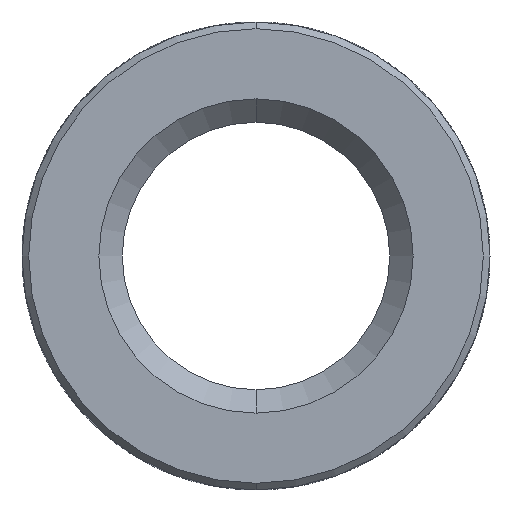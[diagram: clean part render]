
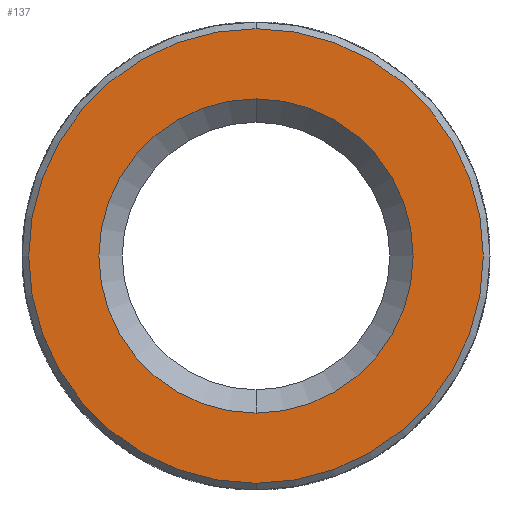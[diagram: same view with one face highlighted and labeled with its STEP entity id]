
A CAD part, front view. The second image highlights one B-rep face of the part: STEP entity #137.
In plain terms, the highlighted planar face has unit normal (0, -1, 0).
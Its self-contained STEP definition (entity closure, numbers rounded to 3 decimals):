
#62 = VERTEX_POINT ( 'NONE', #541 ) ;
#137 = ADVANCED_FACE ( 'NONE', ( #2642, #1533 ), #3821, .T. ) ;
#252 = DIRECTION ( 'NONE',  ( 0., 0., -1. ) ) ;
#270 = ORIENTED_EDGE ( 'NONE', *, *, #3287, .T. ) ;
#439 = DIRECTION ( 'NONE',  ( 0., 1., 0. ) ) ;
#541 = CARTESIAN_POINT ( 'NONE',  ( 0., -6.2, 2.35 ) ) ;
#672 = CIRCLE ( 'NONE', #2906, 3.4 ) ;
#808 = CIRCLE ( 'NONE', #1620, 3.4 ) ;
#935 = AXIS2_PLACEMENT_3D ( 'NONE', #2308, #3203, #1141 ) ;
#940 = EDGE_LOOP ( 'NONE', ( #1844, #270 ) ) ;
#971 = AXIS2_PLACEMENT_3D ( 'NONE', #1816, #2452, #2761 ) ;
#1043 = DIRECTION ( 'NONE',  ( 0., 0., -1. ) ) ;
#1084 = VERTEX_POINT ( 'NONE', #2607 ) ;
#1141 = DIRECTION ( 'NONE',  ( 0., 0., -1. ) ) ;
#1533 = FACE_BOUND ( 'NONE', #1701, .T. ) ;
#1620 = AXIS2_PLACEMENT_3D ( 'NONE', #2261, #1624, #3483 ) ;
#1624 = DIRECTION ( 'NONE',  ( 0., -1., 0. ) ) ;
#1701 = EDGE_LOOP ( 'NONE', ( #3750, #3466 ) ) ;
#1751 = VERTEX_POINT ( 'NONE', #2248 ) ;
#1816 = CARTESIAN_POINT ( 'NONE',  ( 0., -6.2, 0. ) ) ;
#1844 = ORIENTED_EDGE ( 'NONE', *, *, #3361, .T. ) ;
#1889 = CIRCLE ( 'NONE', #3843, 2.35 ) ;
#2241 = CARTESIAN_POINT ( 'NONE',  ( 0., -6.2, 0. ) ) ;
#2248 = CARTESIAN_POINT ( 'NONE',  ( 0., -6.2, -2.35 ) ) ;
#2261 = CARTESIAN_POINT ( 'NONE',  ( 0., -6.2, 0. ) ) ;
#2301 = CARTESIAN_POINT ( 'NONE',  ( 0., -6.2, 0. ) ) ;
#2306 = EDGE_CURVE ( 'NONE', #1751, #62, #1889, .T. ) ;
#2308 = CARTESIAN_POINT ( 'NONE',  ( 0., -6.2, 3.5 ) ) ;
#2452 = DIRECTION ( 'NONE',  ( 0., 1., 0. ) ) ;
#2474 = CARTESIAN_POINT ( 'NONE',  ( 0., -6.2, -3.4 ) ) ;
#2607 = CARTESIAN_POINT ( 'NONE',  ( 0., -6.2, 3.4 ) ) ;
#2642 = FACE_OUTER_BOUND ( 'NONE', #940, .T. ) ;
#2729 = EDGE_CURVE ( 'NONE', #62, #1751, #3512, .T. ) ;
#2761 = DIRECTION ( 'NONE',  ( 0., 0., -1. ) ) ;
#2876 = VERTEX_POINT ( 'NONE', #2474 ) ;
#2906 = AXIS2_PLACEMENT_3D ( 'NONE', #2301, #2910, #252 ) ;
#2910 = DIRECTION ( 'NONE',  ( 0., -1., 0. ) ) ;
#3203 = DIRECTION ( 'NONE',  ( 0., -1., 0. ) ) ;
#3287 = EDGE_CURVE ( 'NONE', #2876, #1084, #808, .T. ) ;
#3361 = EDGE_CURVE ( 'NONE', #1084, #2876, #672, .T. ) ;
#3466 = ORIENTED_EDGE ( 'NONE', *, *, #2729, .T. ) ;
#3483 = DIRECTION ( 'NONE',  ( 0., 0., -1. ) ) ;
#3512 = CIRCLE ( 'NONE', #971, 2.35 ) ;
#3750 = ORIENTED_EDGE ( 'NONE', *, *, #2306, .T. ) ;
#3821 = PLANE ( 'NONE',  #935 ) ;
#3843 = AXIS2_PLACEMENT_3D ( 'NONE', #2241, #439, #1043 ) ;
